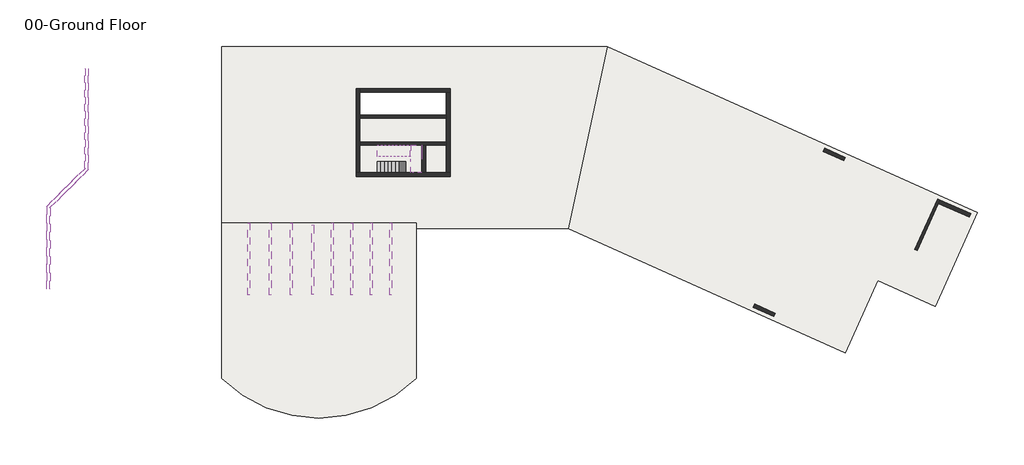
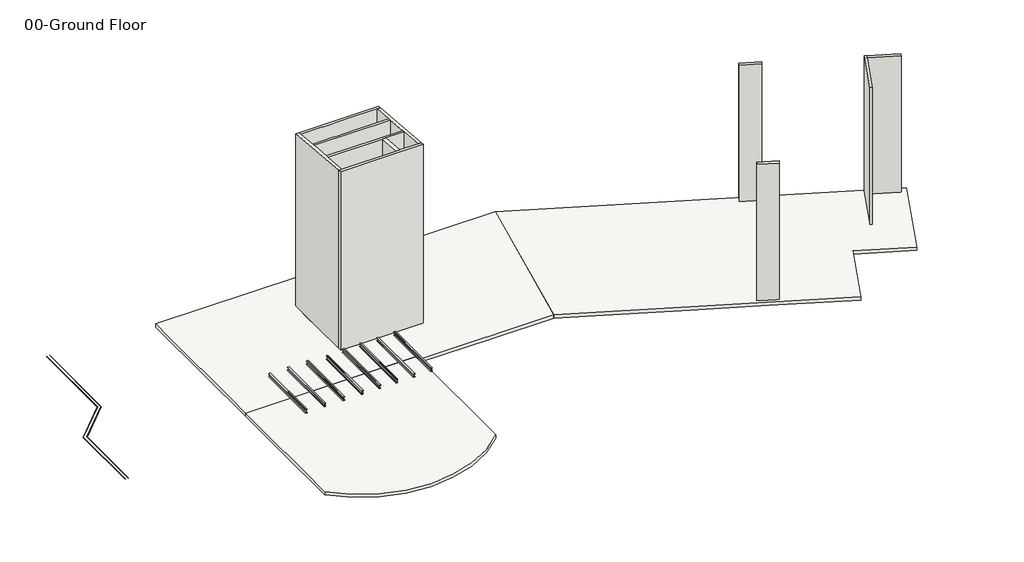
# One storey: 11 walls, 8 beams, 6 proxies, 4 slabs, 2 stair flights.
"""IFC4 building model written with IfcOpenShell, lengths in millimetres."""

from ifc_helpers import new_model, si_unit, frame, origin, origin_with_axes, place, context, project, spatial, polyline, circle_curve, outline, extrude, faceted_brep, transform, mapped, element, save
from ifc_brep_helpers import plane_surface, cylinder_surface, advanced_brep
from components import w_shapes_w12x26_2928aa94, w_shapes_w14x30_640f1b9c

model = new_model("IFC4")

# Units and contexts
model_context = context("Model", 3, world=origin())
ifc_project = project(units=[si_unit("LENGTHUNIT", "METRE", prefix="MILLI")], contexts=[model_context])

# Site, building, storey
site = spatial("IfcSite", under=ifc_project)
building = spatial("IfcBuilding", under=site)
storey = spatial("IfcBuildingStorey", under=building, Name="00-Ground Floor", Elevation=0.0)

# Beams
placement = place(None, origin())
w_shapes_w12x26_shape = w_shapes_w12x26_2928aa94(model_context)
element("IfcBeam", 1, ObjectType="W Shapes : W12X26", at=placement, inside=storey, context=model_context, shape_type="MappedRepresentation", body=[
    mapped(w_shapes_w12x26_shape, transform((1752.6, -16998.95, 2994.66), x_axis=(0.0, 1.0, 0.0), y_axis=(-1.0, 0.0, 0.0), z_axis=(0.0, 0.0, 1.0))),
])
element("IfcBeam", 2, ObjectType="W Shapes : W12X26", at=placement, inside=storey, context=model_context, shape_type="MappedRepresentation", body=[
    mapped(w_shapes_w12x26_shape, transform((3505.2, -16998.95, 2994.66), x_axis=(0.0, 1.0, 0.0), y_axis=(-1.0, 0.0, 0.0), z_axis=(0.0, 0.0, 1.0))),
])
element("IfcBeam", 3, ObjectType="W Shapes : W12X26", at=placement, inside=storey, context=model_context, shape_type="MappedRepresentation", body=[
    mapped(w_shapes_w12x26_shape, transform((5257.8, -16998.95, 2994.66), x_axis=(0.0, 1.0, 0.0), y_axis=(-1.0, 0.0, 0.0), z_axis=(0.0, 0.0, 1.0))),
])
element("IfcBeam", 4, ObjectType="W Shapes : W12X26", at=placement, inside=storey, context=model_context, shape_type="MappedRepresentation", body=[
    mapped(w_shapes_w12x26_shape, transform((8608.06, -16998.95, 2994.66), x_axis=(0.0, 1.0, 0.0), y_axis=(-1.0, 0.0, 0.0), z_axis=(0.0, 0.0, 1.0))),
])
element("IfcBeam", 5, ObjectType="W Shapes : W12X26", at=placement, inside=storey, context=model_context, shape_type="MappedRepresentation", body=[
    mapped(w_shapes_w12x26_shape, transform((10205.72, -16998.95, 2994.66), x_axis=(0.0, 1.0, 0.0), y_axis=(-1.0, 0.0, 0.0), z_axis=(0.0, 0.0, 1.0))),
])
element("IfcBeam", 6, ObjectType="W Shapes : W12X26", at=placement, inside=storey, context=model_context, shape_type="MappedRepresentation", body=[
    mapped(w_shapes_w12x26_shape, transform((11803.38, -16998.95, 2994.66), x_axis=(0.0, 1.0, 0.0), y_axis=(-1.0, 0.0, 0.0), z_axis=(0.0, 0.0, 1.0))),
])
element("IfcBeam", 7, ObjectType="W Shapes : W12X26", at=placement, inside=storey, context=model_context, shape_type="MappedRepresentation", body=[
    mapped(w_shapes_w12x26_shape, transform((13401.04, -16998.95, 2994.66), x_axis=(0.0, 1.0, 0.0), y_axis=(-1.0, 0.0, 0.0), z_axis=(0.0, 0.0, 1.0))),
])
w_shapes_w14x30_shape = w_shapes_w14x30_640f1b9c(model_context)
element("IfcBeam", 8, ObjectType="W Shapes : W14X30", at=placement, inside=storey, context=model_context, shape_type="MappedRepresentation", body=[
    mapped(w_shapes_w14x30_shape, transform((7010.4, -16998.95, 2974.34), x_axis=(0.0, 1.0, 0.0), y_axis=(-1.0, 0.0, 0.0), z_axis=(0.0, 0.0, 1.0))),
])

# Proxies
element("IfcBuildingElementProxy", 9, Name="Reveals", at=placement, inside=storey, context=model_context, shape_type="Brep", body=[
    faceted_brep([(-14486.2784596, -12770.2555384, 1803.4), (-14511.6784596, -12759.734514, 1828.8), (-14486.2784596, -12770.2555384, 1828.8), (-14486.2784596, -19412.7293915, 1803.4), (-14486.2784596, -19412.7293915, 1828.8), (-14511.6784596, -19412.7293915, 1828.8)], [[[0, 1, 2]], [[3, 4, 5]], [[1, 0, 3, 5]], [[2, 1, 5, 4]], [[0, 2, 4, 3]]]),
])
element("IfcBuildingElementProxy", 10, Name="Reveals", at=placement, inside=storey, context=model_context, shape_type="Brep", body=[
    faceted_brep([(-14791.0784596, -12644.0032446, 1803.4), (-14791.0784596, -12644.0032446, 1828.8), (-14765.6784596, -12654.5242691, 1828.8), (-14791.0784596, -19412.7293915, 1803.4), (-14765.6784596, -19412.7293915, 1828.8), (-14791.0784596, -19412.7293915, 1828.8)], [[[0, 1, 2]], [[3, 4, 5]], [[1, 0, 3, 5]], [[2, 1, 5, 4]], [[0, 2, 4, 3]]]),
])
element("IfcBuildingElementProxy", 11, Name="Reveals", at=placement, inside=storey, context=model_context, shape_type="Brep", body=[
    faceted_brep([(-11361.1493295, -1352.4002614, 1803.4), (-11386.5493295, -1352.4002614, 1828.8), (-11361.1493295, -1352.4002614, 1828.8), (-11361.1493295, -9645.1264083, 1803.4), (-11361.1493295, -9645.1264083, 1828.8), (-11386.5493295, -9634.6053838, 1828.8)], [[[0, 1, 2]], [[3, 4, 5]], [[1, 0, 3, 5]], [[2, 1, 5, 4]], [[0, 2, 4, 3]]]),
])
element("IfcBuildingElementProxy", 12, Name="Reveals", at=placement, inside=storey, context=model_context, shape_type="Brep", body=[
    faceted_brep([(-11665.9493295, -1352.4002614, 1803.4), (-11665.9493295, -1352.4002614, 1828.8), (-11640.5493295, -1352.4002614, 1828.8), (-11665.9493295, -9518.8741145, 1803.4), (-11640.5493295, -9529.395139, 1828.8), (-11665.9493295, -9518.8741145, 1828.8)], [[[0, 1, 2]], [[3, 4, 5]], [[1, 0, 3, 5]], [[2, 1, 5, 4]], [[0, 2, 4, 3]]]),
])
element("IfcBuildingElementProxy", 13, Name="Reveals", at=placement, inside=storey, context=model_context, shape_type="Brep", body=[
    faceted_brep([(-11361.1493295, -9645.1264083, 1803.4), (-11386.5493295, -9634.6053838, 1828.8), (-11361.1493295, -9645.1264083, 1828.8), (-14486.2784596, -12770.2555384, 1803.4), (-14486.2784596, -12770.2555384, 1828.8), (-14511.6784596, -12759.734514, 1828.8)], [[[0, 1, 2]], [[3, 4, 5]], [[1, 0, 3, 5]], [[2, 1, 5, 4]], [[0, 2, 4, 3]]]),
])
element("IfcBuildingElementProxy", 14, Name="Reveals", at=placement, inside=storey, context=model_context, shape_type="Brep", body=[
    faceted_brep([(-11665.9493295, -9518.8741145, 1803.4), (-11665.9493295, -9518.8741145, 1828.8), (-11640.5493295, -9529.395139, 1828.8), (-14791.0784596, -12644.0032446, 1803.4), (-14765.6784596, -12654.5242691, 1828.8), (-14791.0784596, -12644.0032446, 1828.8)], [[[0, 1, 2]], [[3, 4, 5]], [[1, 0, 3, 5]], [[2, 1, 5, 4]], [[0, 2, 4, 3]]]),
])

# Slabs
element("IfcSlab", 15, ObjectType="7\" Thickness", at=placement, inside=storey, context=model_context, shape_type="Brep", body=[
    faceted_brep([(15011.4, -9893.3, 1764.6315789), (15011.4, -8978.9, 1764.6315789), (15030.45, -8978.9, 1588.1684211), (15030.45, -9893.3, 1588.1684211), (15925.8, -9893.3, 1764.6315789), (15925.8, -7632.7, 1764.6315789), (15045.9844276, -7632.7, 1764.6315789), (15011.4, -7632.7, 1764.6315789), (14992.35, -7632.7, 1764.6315789), (14992.35, -8547.1, 1764.6315789), (15011.4, -8547.1, 1764.6315789), (15281.6155724, -9893.3, 1764.6315789), (15011.4, -8978.9, 1586.8315789), (15030.45, -8978.9, 1586.8315789), (15030.45, -8978.9, 1441.4199317), (15030.45, -9893.3, 1441.4199317), (15281.6155724, -9893.3, 1586.8315789), (15925.8, -9893.3, 1586.8315789), (15925.8, -7632.7, 1586.8315789), (15045.9844276, -7632.7, 1586.8315789), (15011.4, -7632.7, 1606.8541423), (14992.35, -7632.7, 1617.8830896), (14992.35, -8547.1, 1617.8830896), (15011.4, -8547.1, 1606.8541423), (15011.4, -8547.1, 1586.8315789), (15045.9844276, -8547.1, 1586.8315789), (15281.6155724, -8978.9, 1586.8315789)], [[[0, 1, 2, 3]], [[4, 5, 6, 7, 8, 9, 10, 1, 0, 11]], [[2, 1, 12, 13]], [[3, 2, 13, 14, 15]], [[0, 3, 15, 16, 17, 4, 11]], [[5, 4, 17, 18]], [[5, 18, 19, 20, 7, 6]], [[8, 7, 20, 21]], [[9, 8, 21, 22]], [[10, 9, 22, 23]], [[1, 10, 23, 24, 12]], [[24, 25, 19, 18, 17, 16, 26, 13, 12]], [[25, 24, 23]], [[26, 16, 15, 14]], [[13, 26, 14]], [[19, 25, 23, 22, 21, 20]]]),
])
element("IfcSlab", 16, ObjectType="RC Slab 12\"", at=placement, inside=storey, context=model_context, shape_type="Brep", body=[
    faceted_brep([(-457.2, 457.2, -304.8), (6858.0, 457.2, -304.8), (14998.7, 457.2, -304.8), (22009.1, 457.2, -304.8), (31098.7387393, 457.2, -304.8), (30902.7958822, -457.2, -304.8), (27903.7815965, -14452.6, -304.8), (22009.1, -14452.6, -304.8), (15455.9, -14452.6, -304.8), (15455.9, -13995.4, -304.8), (457.2, -13995.4, -304.8), (-457.2, -13995.4, -304.8), (-457.2, -7505.7, -304.8), (18249.9, -2984.5, -304.8), (10553.7, -2984.5, -304.8), (10553.7, -5422.9, -304.8), (18249.9, -5422.9, -304.8), (31098.7387393, 457.2, 0.0), (-457.2, 457.2, 0.0), (-457.2, -13995.4, 0.0), (15455.9, -13995.4, 0.0), (15455.9, -14452.6, 0.0), (27903.7815965, -14452.6, 0.0), (10553.7, -2984.5, 0.0), (18249.9, -2984.5, 0.0), (18249.9, -5422.9, 0.0), (10553.7, -5422.9, 0.0)], [[[0, 1, 2, 3, 4, 5, 6, 7, 8, 9, 10, 11, 12], [13, 14, 15, 16]], [[17, 18, 19, 20, 21, 22], [23, 24, 25, 26]], [[4, 3, 2, 1, 0, 18, 17]], [[6, 5, 4, 17, 22]], [[6, 22, 21, 8, 7]], [[18, 0, 12, 11, 19]], [[14, 13, 24, 23]], [[15, 14, 23, 26]], [[16, 15, 26, 25]], [[13, 16, 25, 24]], [[20, 9, 8, 21]], [[9, 20, 19, 11, 10]]]),
])
element("IfcSlab", 17, ObjectType="RC Slab 12\"", at=placement, inside=storey, context=model_context, shape_type="AdvancedBrep", body=[
    advanced_brep(
    [(15455.9, -13995.4, -304.8), (15455.9, -14452.6, -304.8), (15455.9, -20002.5, -304.8), (15455.9, -26723.3402351, -304.8), (-457.2, -26723.3402351, -304.8), (-457.2, -20002.5, -304.8), (-457.2, -13995.4, -304.8), (457.2, -13995.4, -304.8), (15455.9, -13995.4, 0.0), (-457.2, -13995.4, 0.0), (-457.2, -26723.3402351, 0.0), (15455.9, -26723.3402351, 0.0), (15455.9, -14452.6, 0.0)],
    [
        (0, 1),
        (1, 2),
        (2, 3),
        (3, 4, circle_curve(frame((7499.35, -18686.6508475, -304.8), z_axis=(0.0, 0.0, -1.0), x_axis=(1.0, 0.0, 0.0)), 11309.0699979)),
        (4, 5),
        (5, 6),
        (6, 7),
        (7, 0),
        (8, 9),
        (9, 10),
        (10, 11, circle_curve(frame((7499.35, -18686.6508475, 0.0), z_axis=(0.0, 0.0, 1.0), x_axis=(1.0, 0.0, 0.0)), 11309.0699979)),
        (11, 12),
        (12, 8),
        (0, 8),
        (11, 3),
        (10, 4),
        (9, 6),
    ],
    [
        plane_surface(frame((15455.9, -13995.4, -304.8), z_axis=(0.0, 0.0, -1.0), x_axis=(0.0, -1.0, 0.0))),
        plane_surface(frame((15455.9, -13995.4, 0.0), z_axis=(0.0, 0.0, 1.0), x_axis=(0.0, 1.0, 0.0))),
        plane_surface(frame((15455.9, -13995.4, -304.8), z_axis=(1.0, 0.0, 0.0), x_axis=(0.0, 0.0, 1.0))),
        cylinder_surface(frame((7499.35, -18686.6508475, 0.0), z_axis=(0.0, 0.0, -1.0), x_axis=(1.0, 0.0, 0.0)), 11309.0699979),
        plane_surface(frame((-457.2, -26723.3402351, -304.8), z_axis=(-1.0, 0.0, 0.0), x_axis=(0.0, 0.0, 1.0))),
        plane_surface(frame((-457.2, -13995.4, -304.8), z_axis=(0.0, 1.0, 0.0), x_axis=(0.0, 0.0, 1.0))),
    ],
    [
        (0, [[1, 2, 3, 4, 5, 6, 7, 8]]),
        (1, [[9, 10, 11, 12, 13]]),
        (2, [[-3, -2, -1, 14, -13, -12, 15]]),
        (3, [[-4, -15, -11, 16]]),
        (4, [[-6, -5, -16, -10, 17]]),
        (5, [[-8, -7, -17, -9, -14]]),
    ],
),
])
element("IfcSlab", 18, ObjectType="RC Slab 12\"", at=placement, inside=storey, context=model_context, shape_type="Brep", body=[
    faceted_brep([(61413.0546278, -13159.9258537, -304.8), (57962.8673107, -20840.7, -304.8), (53236.2370668, -18717.5078049, -304.8), (50577.0429205, -24637.3804878, -304.8), (43765.1346278, -21577.4858537, -304.8), (37370.2819449, -18704.9317073, -304.8), (30975.429262, -15832.377561, -304.8), (27903.7815965, -14452.6, -304.8), (30902.7958822, -457.2, -304.8), (31098.7387393, 457.2, -304.8), (37084.8107254, -2231.7307317, -304.8), (43479.6634083, -5104.284878, -304.8), (49874.5160912, -7976.8390244, -304.8), (56269.3687742, -10849.3931707, -304.8), (61413.0546278, -13159.9258537, 0.0), (31098.7387393, 457.2, 0.0), (27903.7815965, -14452.6, 0.0), (50577.0429205, -24637.3804878, 0.0), (53236.2370668, -18717.5078049, 0.0), (57962.8673107, -20840.7, 0.0)], [[[0, 1, 2, 3, 4, 5, 6, 7, 8, 9, 10, 11, 12, 13]], [[14, 15, 16, 17, 18, 19]], [[1, 0, 14, 19]], [[2, 1, 19, 18]], [[3, 2, 18, 17]], [[7, 6, 5, 4, 3, 17, 16]], [[9, 8, 7, 16, 15]], [[0, 13, 12, 11, 10, 9, 15, 14]]]),
])

# Stair flights
element("IfcStairFlight", 19, ObjectType="3/4\" Nosing", at=placement, inside=storey, context=model_context, shape_type="Brep", body=[
    faceted_brep([(12268.2, -9893.3, 176.4631579), (12268.2, -8978.9, 176.4631579), (12287.25, -8978.9, 0.0), (12287.25, -9893.3, 0.0), (12592.05, -9893.3, 176.4631579), (12592.05, -8978.9, 176.4631579), (12592.05, -8978.9, 29.7146686), (12540.7246633, -8978.9, 0.0), (12540.7246633, -9893.3, 0.0), (12592.05, -9893.3, 29.7146686), (12573.0, -8978.9, 352.9263158), (12573.0, -9893.3, 352.9263158), (12896.85, -9893.3, 352.9263158), (12896.85, -8978.9, 352.9263158), (12896.85, -8978.9, 206.1778265), (12896.85, -9893.3, 206.1778265), (12877.8, -8978.9, 529.3894737), (12877.8, -9893.3, 529.3894737), (13201.65, -9893.3, 529.3894737), (13201.65, -8978.9, 529.3894737), (13201.65, -8978.9, 382.6409844), (13201.65, -9893.3, 382.6409844), (13182.6, -8978.9, 705.8526316), (13182.6, -9893.3, 705.8526316), (13506.45, -9893.3, 705.8526316), (13506.45, -8978.9, 705.8526316), (13506.45, -8978.9, 559.1041423), (13506.45, -9893.3, 559.1041423), (13487.4, -8978.9, 882.3157895), (13487.4, -9893.3, 882.3157895), (13811.25, -9893.3, 882.3157895), (13811.25, -8978.9, 882.3157895), (13811.25, -8978.9, 735.5673002), (13811.25, -9893.3, 735.5673002), (13792.2, -8978.9, 1058.7789474), (13792.2, -9893.3, 1058.7789474), (14116.05, -9893.3, 1058.7789474), (14116.05, -8978.9, 1058.7789474), (14116.05, -8978.9, 912.0304581), (14116.05, -9893.3, 912.0304581), (14097.0, -8978.9, 1235.2421053), (14097.0, -9893.3, 1235.2421053), (14420.85, -9893.3, 1235.2421053), (14420.85, -8978.9, 1235.2421053), (14420.85, -8978.9, 1088.493616), (14420.85, -9893.3, 1088.493616), (14725.65, -8978.9, 1264.9567739), (15030.45, -8978.9, 1441.4199317), (15030.45, -9893.3, 1441.4199317), (15011.4, -9893.3, 1430.3909844), (14725.65, -9893.3, 1264.9567739), (14401.8, -8978.9, 1411.7052632), (14401.8, -9893.3, 1411.7052632), (14725.65, -9893.3, 1411.7052632), (14725.65, -8978.9, 1411.7052632), (14706.6, -8978.9, 1588.1684211), (14706.6, -9893.3, 1588.1684211), (15011.4, -9893.3, 1588.1684211), (15030.45, -9893.3, 1588.1684211), (15030.45, -8978.9, 1588.1684211), (15011.4, -8978.9, 1588.1684211), (15030.45, -8978.9, 1586.8315789)], [[[0, 1, 2, 3]], [[1, 0, 4, 5]], [[1, 5, 6, 7, 2]], [[4, 0, 3, 8, 9]], [[10, 11, 12, 13]], [[10, 13, 14, 6, 5]], [[12, 11, 4, 9, 15]], [[5, 4, 11, 10]], [[16, 17, 18, 19]], [[16, 19, 20, 14, 13]], [[18, 17, 12, 15, 21]], [[13, 12, 17, 16]], [[22, 23, 24, 25]], [[22, 25, 26, 20, 19]], [[24, 23, 18, 21, 27]], [[19, 18, 23, 22]], [[28, 29, 30, 31]], [[28, 31, 32, 26, 25]], [[30, 29, 24, 27, 33]], [[25, 24, 29, 28]], [[34, 35, 36, 37]], [[34, 37, 38, 32, 31]], [[36, 35, 30, 33, 39]], [[31, 30, 35, 34]], [[40, 41, 42, 43]], [[40, 43, 44, 38, 37]], [[42, 41, 36, 39, 45]], [[37, 36, 41, 40]], [[3, 2, 7, 8]], [[8, 7, 6, 14, 20, 26, 32, 38, 44, 46, 47, 48, 49, 50, 45, 39, 33, 27, 21, 15, 9]], [[51, 52, 53, 54]], [[51, 54, 46, 44, 43]], [[53, 52, 42, 45, 50]], [[43, 42, 52, 51]], [[55, 56, 57, 58, 59, 60]], [[54, 55, 60, 59, 61, 47, 46]], [[57, 56, 53, 50, 49]], [[58, 57, 49, 48]], [[59, 58, 48, 47, 61]], [[54, 53, 56, 55]]]),
])
element("IfcStairFlight", 20, ObjectType="3/4\" Nosing", at=placement, inside=storey, context=model_context, shape_type="Brep", body=[
    faceted_brep([(15011.4, -7632.7, 1941.0947368), (15011.4, -8547.1, 1941.0947368), (14992.35, -8547.1, 1764.6315789), (14992.35, -7632.7, 1764.6315789), (14687.55, -7632.7, 1941.0947368), (14687.55, -8547.1, 1941.0947368), (14687.55, -8547.1, 1794.3462475), (14992.35, -8547.1, 1617.8830896), (14992.35, -7632.7, 1617.8830896), (14687.55, -7632.7, 1794.3462475), (14706.6, -8547.1, 2117.5578947), (14706.6, -7632.7, 2117.5578947), (14382.75, -7632.7, 2117.5578947), (14382.75, -8547.1, 2117.5578947), (14382.75, -8547.1, 1970.8094054), (14382.75, -7632.7, 1970.8094054), (14401.8, -8547.1, 2294.0210526), (14401.8, -7632.7, 2294.0210526), (14077.95, -7632.7, 2294.0210526), (14077.95, -8547.1, 2294.0210526), (14077.95, -8547.1, 2147.2725633), (14077.95, -7632.7, 2147.2725633), (14097.0, -8547.1, 2470.4842105), (14097.0, -7632.7, 2470.4842105), (13773.15, -7632.7, 2470.4842105), (13773.15, -8547.1, 2470.4842105), (13773.15, -8547.1, 2323.7357212), (13773.15, -7632.7, 2323.7357212), (13792.2, -8547.1, 2646.9473684), (13792.2, -7632.7, 2646.9473684), (13468.35, -7632.7, 2646.9473684), (13468.35, -8547.1, 2646.9473684), (13468.35, -8547.1, 2500.1988791), (13468.35, -7632.7, 2500.1988791), (13487.4, -8547.1, 2823.4105263), (13487.4, -7632.7, 2823.4105263), (13163.55, -7632.7, 2823.4105263), (13163.55, -8547.1, 2823.4105263), (13163.55, -8547.1, 2676.662037), (13163.55, -7632.7, 2676.662037), (13182.6, -8547.1, 2999.8736842), (13182.6, -7632.7, 2999.8736842), (12858.75, -7632.7, 2999.8736842), (12858.75, -8547.1, 2999.8736842), (12858.75, -8547.1, 2853.1251949), (12858.75, -7632.7, 2853.1251949), (12877.8, -8547.1, 3176.3368421), (12877.8, -7632.7, 3176.3368421), (12553.95, -7632.7, 3176.3368421), (12553.95, -8547.1, 3176.3368421), (12553.95, -8547.1, 3029.5883528), (12553.95, -7632.7, 3029.5883528), (12573.0, -8547.1, 3352.8), (12573.0, -7632.7, 3352.8), (12268.2, -7632.7, 3352.8), (12268.2, -8547.1, 3352.8), (12268.2, -8547.1, 3195.0225633), (12268.2, -7632.7, 3195.0225633)], [[[0, 1, 2, 3]], [[1, 0, 4, 5]], [[1, 5, 6, 7, 2]], [[3, 2, 7, 8]], [[4, 0, 3, 8, 9]], [[10, 11, 12, 13]], [[10, 13, 14, 6, 5]], [[12, 11, 4, 9, 15]], [[11, 10, 5, 4]], [[16, 17, 18, 19]], [[16, 19, 20, 14, 13]], [[18, 17, 12, 15, 21]], [[17, 16, 13, 12]], [[22, 23, 24, 25]], [[22, 25, 26, 20, 19]], [[24, 23, 18, 21, 27]], [[23, 22, 19, 18]], [[28, 29, 30, 31]], [[28, 31, 32, 26, 25]], [[30, 29, 24, 27, 33]], [[29, 28, 25, 24]], [[34, 35, 36, 37]], [[34, 37, 38, 32, 31]], [[36, 35, 30, 33, 39]], [[35, 34, 31, 30]], [[40, 41, 42, 43]], [[40, 43, 44, 38, 37]], [[42, 41, 36, 39, 45]], [[41, 40, 37, 36]], [[46, 47, 48, 49]], [[46, 49, 50, 44, 43]], [[48, 47, 42, 45, 51]], [[47, 46, 43, 42]], [[52, 53, 54, 55]], [[52, 55, 56, 50, 49]], [[54, 53, 48, 51, 57]], [[55, 54, 57, 56]], [[53, 52, 49, 48]], [[7, 6, 14, 20, 26, 32, 38, 44, 50, 56, 57, 51, 45, 39, 33, 27, 21, 15, 9, 8]]]),
])

# Walls
element("IfcWall", 21, ObjectType="Blockwork 10\"", at=placement, inside=storey, context=model_context, shape_type="SweptSolid", body=[
    extrude(outline(polyline([(-9893.3, 0.0), (-9893.3, 17533.5928076), (-7632.7, 17335.8159349), (-7632.7, 0.0), (-9893.3, 0.0)])), frame((15925.8, 0.0, 0.0), z_axis=(1.0, 0.0, 0.0), x_axis=(0.0, 1.0, 0.0)), (0.0, 0.0, 1.0), 304.8),
])
element("IfcWall", 22, ObjectType="RC Wall 10\"", at=placement, inside=storey, context=model_context, shape_type="Brep", body=[
    faceted_brep([(10858.5, -5422.9, 0.0), (17945.1, -5422.9, 0.0), (17945.1, -5422.9, 17142.4834862), (10858.5, -5422.9, 17142.4834862), (10858.5, -5168.9, 0.0), (10858.5, -5168.9, 17120.2613657), (12738.1, -5168.9, 17120.2613657), (12992.1, -5168.9, 17120.2613657), (14871.7, -5168.9, 17120.2613657), (15125.7, -5168.9, 17120.2613657), (17945.1, -5168.9, 17120.2613657), (17945.1, -5168.9, 0.0)], [[[0, 1, 2, 3]], [[4, 5, 6, 7, 8, 9, 10, 11]], [[1, 0, 4, 11]], [[0, 3, 5, 4]], [[2, 1, 11, 10]], [[3, 2, 10, 9, 8, 7, 6, 5]]]),
])
element("IfcWall", 23, ObjectType="RC Wall 10\"", at=placement, inside=storey, context=model_context, shape_type="Brep", body=[
    faceted_brep([(10858.5, -7632.7, 0.0), (15925.8, -7632.7, 0.0), (16230.6, -7632.7, 0.0), (17945.1, -7632.7, 0.0), (17945.1, -7632.7, 17335.8159349), (16230.6, -7632.7, 17335.8159349), (15925.8, -7632.7, 17335.8159349), (10858.5, -7632.7, 17335.8159349), (10858.5, -7378.7, 0.0), (10858.5, -7378.7, 17313.5938143), (17945.1, -7378.7, 17313.5938143), (17945.1, -7378.7, 0.0)], [[[0, 1, 2, 3, 4, 5, 6, 7]], [[8, 9, 10, 11]], [[3, 2, 1, 0, 8, 11]], [[0, 7, 9, 8]], [[4, 3, 11, 10]], [[7, 6, 5, 4, 10, 9]]]),
])
element("IfcWall", 24, ObjectType="RC Wall 12\"", at=placement, inside=storey, context=model_context, shape_type="Brep", body=[
    faceted_brep([(18249.9, -9893.3, 0.0), (17945.1, -9893.3, 0.0), (16230.6, -9893.3, 0.0), (15925.8, -9893.3, 0.0), (10858.5, -9893.3, 0.0), (10553.7, -9893.3, 0.0), (10553.7, -9893.3, 17533.5928076), (10858.5, -9893.3, 17533.5928076), (15925.8, -9893.3, 17533.5928076), (16230.6, -9893.3, 17533.5928076), (17945.1, -9893.3, 17533.5928076), (18249.9, -9893.3, 17533.5928076), (18249.9, -10198.1, 0.0), (18249.9, -10198.1, 17560.2593523), (10553.7, -10198.1, 17560.2593523), (10553.7, -10198.1, 0.0)], [[[0, 1, 2, 3, 4, 5, 6, 7, 8, 9, 10, 11]], [[12, 13, 14, 15]], [[5, 4, 3, 2, 1, 0, 12, 15]], [[6, 5, 15, 14]], [[0, 11, 13, 12]], [[11, 10, 9, 8, 7, 6, 14, 13]]]),
])
element("IfcWall", 25, ObjectType="RC Wall 12\"", at=placement, inside=storey, context=model_context, shape_type="Brep", body=[
    faceted_brep([(10858.5, -9893.3, 0.0), (10858.5, -7632.7, 0.0), (10858.5, -7378.7, 0.0), (10858.5, -5422.9, 0.0), (10858.5, -5168.9, 0.0), (10858.5, -3289.3, 0.0), (10858.5, -2984.5, 0.0), (10858.5, -2984.5, 16929.1511291), (10858.5, -3289.3, 16955.8176737), (10858.5, -5168.9, 17120.2613657), (10858.5, -5422.9, 17142.4834862), (10858.5, -7378.7, 17313.5938143), (10858.5, -7632.7, 17335.8159349), (10858.5, -9893.3, 17533.5928076), (10553.7, -9893.3, 0.0), (10553.7, -9893.3, 17533.5928076), (10553.7, -2984.5, 16929.1511291), (10553.7, -2984.5, 0.0)], [[[0, 1, 2, 3, 4, 5, 6, 7, 8, 9, 10, 11, 12, 13]], [[14, 15, 16, 17]], [[6, 5, 4, 3, 2, 1, 0, 14, 17]], [[0, 13, 15, 14]], [[7, 6, 17, 16]], [[13, 12, 11, 10, 9, 8, 7, 16, 15]]]),
])
element("IfcWall", 26, ObjectType="RC Wall 12\"", at=placement, inside=storey, context=model_context, shape_type="Brep", body=[
    faceted_brep([(10858.5, -3289.3, 0.0), (17945.1, -3289.3, 0.0), (18249.9, -3289.3, 0.0), (18249.9, -3289.3, 16955.8176737), (17945.1, -3289.3, 16955.8176737), (15125.7, -3289.3, 16955.8176737), (14871.7, -3289.3, 16955.8176737), (12992.1, -3289.3, 16955.8176737), (12738.1, -3289.3, 16955.8176737), (10858.5, -3289.3, 16955.8176737), (10858.5, -2984.5, 0.0), (10858.5, -2984.5, 16929.1511291), (18249.9, -2984.5, 16929.1511291), (18249.9, -2984.5, 0.0)], [[[0, 1, 2, 3, 4, 5, 6, 7, 8, 9]], [[10, 11, 12, 13]], [[2, 1, 0, 10, 13]], [[0, 9, 11, 10]], [[3, 2, 13, 12]], [[9, 8, 7, 6, 5, 4, 3, 12, 11]]]),
])
element("IfcWall", 27, ObjectType="RC Wall 12\"", at=placement, inside=storey, context=model_context, shape_type="Brep", body=[
    faceted_brep([(17945.1, -3289.3, 0.0), (17945.1, -5168.9, 0.0), (17945.1, -5422.9, 0.0), (17945.1, -7378.7, 0.0), (17945.1, -7632.7, 0.0), (17945.1, -9893.3, 0.0), (17945.1, -9893.3, 17533.5928076), (17945.1, -7632.7, 17335.8159349), (17945.1, -7378.7, 17313.5938143), (17945.1, -5422.9, 17142.4834862), (17945.1, -5168.9, 17120.2613657), (17945.1, -3289.3, 16955.8176737), (18249.9, -3289.3, 0.0), (18249.9, -3289.3, 16955.8176737), (18249.9, -9893.3, 17533.5928076), (18249.9, -9893.3, 0.0)], [[[0, 1, 2, 3, 4, 5, 6, 7, 8, 9, 10, 11]], [[12, 13, 14, 15]], [[5, 4, 3, 2, 1, 0, 12, 15]], [[6, 5, 15, 14]], [[0, 11, 13, 12]], [[11, 10, 9, 8, 7, 6, 14, 13]]]),
])
element("IfcWall", 28, ObjectType="RC Wall 12\"", at=placement, inside=storey, context=model_context, shape_type="SweptSolid", body=[
    extrude(outline(polyline([(58345.6019449, -12116.1717073), (60871.1053595, -13250.622439), (60746.211701, -13528.6595122), (58220.7082864, -12394.2087805), (58345.6019449, -12116.1717073)])), origin_with_axes(), (0.0, 0.0, 1.0), 13411.2),
])
element("IfcWall", 29, ObjectType="RC Wall 12\"", at=placement, inside=storey, context=model_context, shape_type="SweptSolid", body=[
    extrude(outline(polyline([(50458.8399937, -8907.5941463), (48790.6175546, -8158.2321951), (48915.5112132, -7880.195122), (50583.7336522, -8629.5570732), (50458.8399937, -8907.5941463)])), origin_with_axes(), (0.0, 0.0, 1.0), 13411.2),
])
element("IfcWall", 30, ObjectType="RC Wall 12\"", at=placement, inside=storey, context=model_context, shape_type="SweptSolid", body=[
    extrude(outline(polyline([(44724.1395059, -21674.1297561), (43055.9170668, -20924.7678049), (43180.8107254, -20646.7307317), (44849.0331644, -21396.0926829), (44724.1395059, -21674.1297561)])), origin_with_axes(), (0.0, 0.0, 1.0), 13411.2),
])
element("IfcWall", 31, ObjectType="RC Wall 8\"", at=placement, inside=storey, context=model_context, shape_type="Brep", body=[
    faceted_brep([(58160.2438961, -12032.9092683, 0.0), (56297.2468229, -16180.2956098, 0.0), (56297.2468229, -16180.2956098, 13411.2), (58160.2438961, -12032.9092683, 13411.2), (58345.6019449, -12116.1717073, 0.0), (58345.6019449, -12116.1717073, 13411.2), (58220.7082864, -12394.2087805, 13411.2), (56482.6048717, -16263.5580488, 13411.2), (56482.6048717, -16263.5580488, 0.0), (58220.7082864, -12394.2087805, 0.0)], [[[0, 1, 2, 3]], [[4, 5, 6, 7, 8, 9]], [[1, 0, 4, 9, 8]], [[2, 1, 8, 7]], [[3, 2, 7, 6, 5]], [[0, 3, 5, 4]]]),
])

save(model, "model.ifc")
